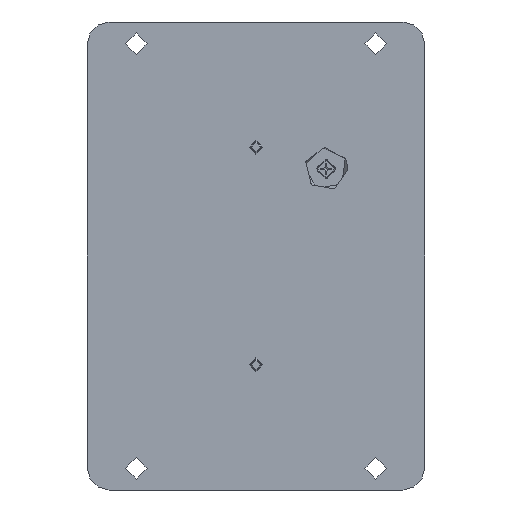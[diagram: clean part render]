
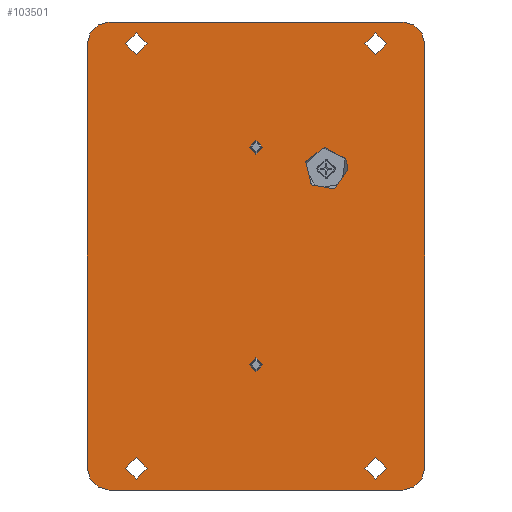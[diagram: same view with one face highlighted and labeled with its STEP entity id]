
A CAD part, front view. The second image highlights one B-rep face of the part: STEP entity #103501.
In plain terms, the highlighted planar face has unit normal (0, -1, 0).
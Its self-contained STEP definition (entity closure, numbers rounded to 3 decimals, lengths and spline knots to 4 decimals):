
#5817=FACE_BOUND('',#36506,.T.);
#5818=FACE_BOUND('',#36507,.T.);
#5819=FACE_BOUND('',#36508,.T.);
#5820=FACE_BOUND('',#36509,.T.);
#5821=FACE_BOUND('',#36510,.T.);
#5822=FACE_BOUND('',#36511,.T.);
#5823=FACE_BOUND('',#36512,.T.);
#15238=LINE('',#178070,#24661);
#15241=LINE('',#178078,#24664);
#15244=LINE('',#178086,#24667);
#15246=LINE('',#178092,#24669);
#24661=VECTOR('',#132521,0.3937);
#24664=VECTOR('',#132530,0.3937);
#24667=VECTOR('',#132539,0.3937);
#24669=VECTOR('',#132547,0.3937);
#30179=FACE_OUTER_BOUND('',#36505,.T.);
#36505=EDGE_LOOP('',(#89721,#89722,#89723,#89724,#89725,#89726,#89727,#89728));
#36506=EDGE_LOOP('',(#89729));
#36507=EDGE_LOOP('',(#89730));
#36508=EDGE_LOOP('',(#89731));
#36509=EDGE_LOOP('',(#89732));
#36510=EDGE_LOOP('',(#89733));
#36511=EDGE_LOOP('',(#89734));
#36512=EDGE_LOOP('',(#89735));
#38312=CIRCLE('',#110026,0.08);
#38313=CIRCLE('',#110028,0.08);
#38314=CIRCLE('',#110030,0.25);
#38315=CIRCLE('',#110032,0.125);
#38316=CIRCLE('',#110034,0.125);
#38317=CIRCLE('',#110036,0.125);
#38318=CIRCLE('',#110038,0.125);
#38319=CIRCLE('',#110040,0.25);
#38320=CIRCLE('',#110043,0.25);
#38321=CIRCLE('',#110046,0.25);
#38322=CIRCLE('',#110049,0.25);
#47618=VERTEX_POINT('',#178041);
#47619=VERTEX_POINT('',#178044);
#47620=VERTEX_POINT('',#178047);
#47621=VERTEX_POINT('',#178050);
#47622=VERTEX_POINT('',#178053);
#47623=VERTEX_POINT('',#178056);
#47624=VERTEX_POINT('',#178059);
#47625=VERTEX_POINT('',#178062);
#47626=VERTEX_POINT('',#178064);
#47627=VERTEX_POINT('',#178068);
#47628=VERTEX_POINT('',#178072);
#47629=VERTEX_POINT('',#178076);
#47630=VERTEX_POINT('',#178080);
#47631=VERTEX_POINT('',#178084);
#47632=VERTEX_POINT('',#178088);
#61641=EDGE_CURVE('',#47618,#47618,#38312,.T.);
#61642=EDGE_CURVE('',#47619,#47619,#38313,.T.);
#61643=EDGE_CURVE('',#47620,#47620,#38314,.T.);
#61644=EDGE_CURVE('',#47621,#47621,#38315,.T.);
#61645=EDGE_CURVE('',#47622,#47622,#38316,.T.);
#61646=EDGE_CURVE('',#47623,#47623,#38317,.T.);
#61647=EDGE_CURVE('',#47624,#47624,#38318,.T.);
#61649=EDGE_CURVE('',#47625,#47626,#38319,.T.);
#61652=EDGE_CURVE('',#47627,#47625,#15238,.T.);
#61654=EDGE_CURVE('',#47628,#47627,#38320,.T.);
#61656=EDGE_CURVE('',#47629,#47628,#15241,.T.);
#61658=EDGE_CURVE('',#47630,#47629,#38321,.T.);
#61660=EDGE_CURVE('',#47631,#47630,#15244,.T.);
#61662=EDGE_CURVE('',#47632,#47631,#38322,.T.);
#61663=EDGE_CURVE('',#47626,#47632,#15246,.T.);
#89721=ORIENTED_EDGE('',*,*,#61663,.F.);
#89722=ORIENTED_EDGE('',*,*,#61649,.F.);
#89723=ORIENTED_EDGE('',*,*,#61652,.F.);
#89724=ORIENTED_EDGE('',*,*,#61654,.F.);
#89725=ORIENTED_EDGE('',*,*,#61656,.F.);
#89726=ORIENTED_EDGE('',*,*,#61658,.F.);
#89727=ORIENTED_EDGE('',*,*,#61660,.F.);
#89728=ORIENTED_EDGE('',*,*,#61662,.F.);
#89729=ORIENTED_EDGE('',*,*,#61641,.T.);
#89730=ORIENTED_EDGE('',*,*,#61642,.T.);
#89731=ORIENTED_EDGE('',*,*,#61643,.T.);
#89732=ORIENTED_EDGE('',*,*,#61644,.T.);
#89733=ORIENTED_EDGE('',*,*,#61645,.T.);
#89734=ORIENTED_EDGE('',*,*,#61646,.T.);
#89735=ORIENTED_EDGE('',*,*,#61647,.T.);
#93091=PLANE('',#110051);
#103501=ADVANCED_FACE('',(#30179,#5817,#5818,#5819,#5820,#5821,#5822,#5823),
#93091,.F.);
#110026=AXIS2_PLACEMENT_3D('',#178042,#132486,#132487);
#110028=AXIS2_PLACEMENT_3D('',#178045,#132490,#132491);
#110030=AXIS2_PLACEMENT_3D('',#178048,#132494,#132495);
#110032=AXIS2_PLACEMENT_3D('',#178051,#132498,#132499);
#110034=AXIS2_PLACEMENT_3D('',#178054,#132502,#132503);
#110036=AXIS2_PLACEMENT_3D('',#178057,#132506,#132507);
#110038=AXIS2_PLACEMENT_3D('',#178060,#132510,#132511);
#110040=AXIS2_PLACEMENT_3D('',#178065,#132515,#132516);
#110043=AXIS2_PLACEMENT_3D('',#178074,#132525,#132526);
#110046=AXIS2_PLACEMENT_3D('',#178082,#132534,#132535);
#110049=AXIS2_PLACEMENT_3D('',#178090,#132543,#132544);
#110051=AXIS2_PLACEMENT_3D('',#178093,#132548,#132549);
#132486=DIRECTION('center_axis',(0.,1.,0.));
#132487=DIRECTION('ref_axis',(-1.,0.,0.));
#132490=DIRECTION('center_axis',(0.,1.,0.));
#132491=DIRECTION('ref_axis',(-1.,0.,0.));
#132494=DIRECTION('center_axis',(0.,1.,0.));
#132495=DIRECTION('ref_axis',(-1.,0.,0.));
#132498=DIRECTION('center_axis',(0.,1.,0.));
#132499=DIRECTION('ref_axis',(1.,0.,0.));
#132502=DIRECTION('center_axis',(0.,1.,0.));
#132503=DIRECTION('ref_axis',(1.,0.,0.));
#132506=DIRECTION('center_axis',(0.,1.,0.));
#132507=DIRECTION('ref_axis',(1.,0.,0.));
#132510=DIRECTION('center_axis',(0.,1.,0.));
#132511=DIRECTION('ref_axis',(1.,0.,0.));
#132515=DIRECTION('center_axis',(0.,1.,0.));
#132516=DIRECTION('ref_axis',(1.,0.,0.));
#132521=DIRECTION('',(0.,0.,-1.));
#132525=DIRECTION('center_axis',(0.,1.,0.));
#132526=DIRECTION('ref_axis',(0.,0.,1.));
#132530=DIRECTION('',(1.,0.,0.));
#132534=DIRECTION('center_axis',(0.,1.,0.));
#132535=DIRECTION('ref_axis',(-1.,0.,0.));
#132539=DIRECTION('',(0.,0.,1.));
#132543=DIRECTION('center_axis',(0.,1.,0.));
#132544=DIRECTION('ref_axis',(0.,0.,-1.));
#132547=DIRECTION('',(-1.,0.,0.));
#132548=DIRECTION('center_axis',(0.,1.,0.));
#132549=DIRECTION('ref_axis',(0.,0.,1.));
#178041=CARTESIAN_POINT('',(0.08,0.,-1.25));
#178042=CARTESIAN_POINT('Origin',(0.,0.,-1.25));
#178044=CARTESIAN_POINT('',(0.08,0.,1.25));
#178045=CARTESIAN_POINT('Origin',(0.,0.,1.25));
#178047=CARTESIAN_POINT('',(1.055,0.,1.));
#178048=CARTESIAN_POINT('Origin',(0.805,0.,1.));
#178050=CARTESIAN_POINT('',(-1.5,0.,2.4375));
#178051=CARTESIAN_POINT('Origin',(-1.375,0.,2.4375));
#178053=CARTESIAN_POINT('',(1.25,0.,2.4375));
#178054=CARTESIAN_POINT('Origin',(1.375,0.,2.4375));
#178056=CARTESIAN_POINT('',(-1.5,0.,-2.4375));
#178057=CARTESIAN_POINT('Origin',(-1.375,0.,-2.4375));
#178059=CARTESIAN_POINT('',(1.25,0.,-2.4375));
#178060=CARTESIAN_POINT('Origin',(1.375,0.,-2.4375));
#178062=CARTESIAN_POINT('',(1.9375,0.,-2.4375));
#178064=CARTESIAN_POINT('',(1.6875,0.,-2.6875));
#178065=CARTESIAN_POINT('Origin',(1.6875,0.,-2.4375));
#178068=CARTESIAN_POINT('',(1.9375,0.,2.4375));
#178070=CARTESIAN_POINT('',(1.9375,0.,2.4375));
#178072=CARTESIAN_POINT('',(1.6875,0.,2.6875));
#178074=CARTESIAN_POINT('Origin',(1.6875,0.,2.4375));
#178076=CARTESIAN_POINT('',(-1.6875,0.,2.6875));
#178078=CARTESIAN_POINT('',(-1.6875,0.,2.6875));
#178080=CARTESIAN_POINT('',(-1.9375,0.,2.4375));
#178082=CARTESIAN_POINT('Origin',(-1.6875,0.,2.4375));
#178084=CARTESIAN_POINT('',(-1.9375,0.,-2.4375));
#178086=CARTESIAN_POINT('',(-1.9375,0.,-2.4375));
#178088=CARTESIAN_POINT('',(-1.6875,0.,-2.6875));
#178090=CARTESIAN_POINT('Origin',(-1.6875,0.,-2.4375));
#178092=CARTESIAN_POINT('',(1.6875,0.,-2.6875));
#178093=CARTESIAN_POINT('Origin',(0.,0.,0.));
